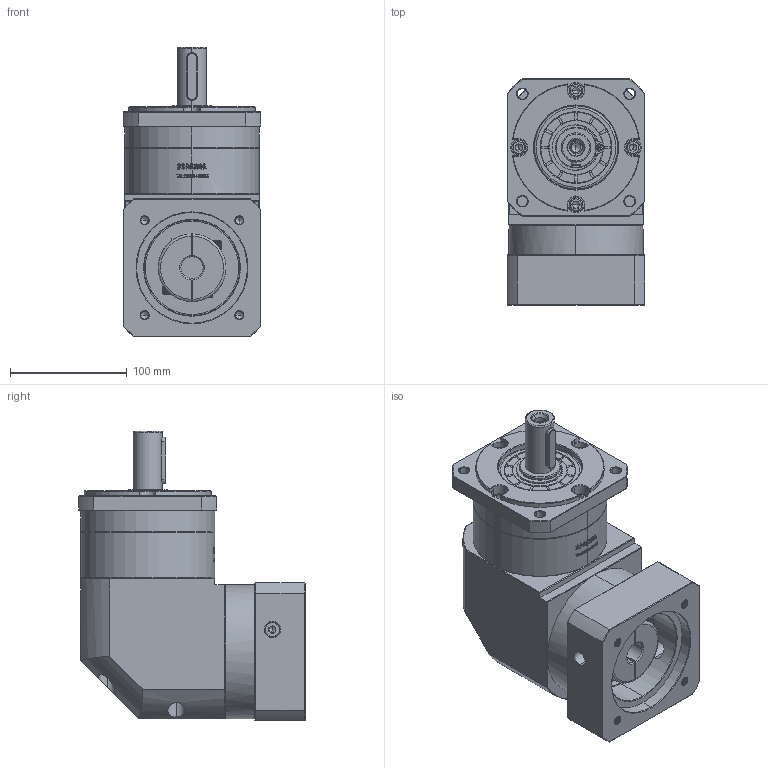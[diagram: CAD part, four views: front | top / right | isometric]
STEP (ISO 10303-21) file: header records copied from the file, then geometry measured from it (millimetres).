
FILE_DESCRIPTION (( 'STEP AP214' ), '1' );
FILE_NAME ('ZFR120A-D25-L1-19-95-115-M8.step', '2023-03-08T08:18:02', ( '' ), ( '' ), 'SwSTEP 2.0', 'SolidWorks 2016', '' );
FILE_SCHEMA (( 'AUTOMOTIVE_DESIGN' ));
Length unit declared in the file: millimetre
Products named in the file (1): ZFR120A-D25-L1-19-95-115-M8
Bounding box: 118 x 193.9 x 248 mm (x, y, z)
Volume: 2897835.1 mm3; surface area: 243953.5 mm2
Topology: 6 solids, 6 shells, 2869 faces, 7679 edges, 4955 vertices
Faces by surface type: plane 1484, bspline 606, cylinder 434, cone 337, torus 8
Entity records: 157832 total; most frequent: CARTESIAN_POINT 60445, ORIENTED_EDGE 15298, DIRECTION 11128, EDGE_CURVE 7649, VERTEX_POINT 4955, LINE 4748, VECTOR 4748, AXIS2_PLACEMENT_3D 3190
